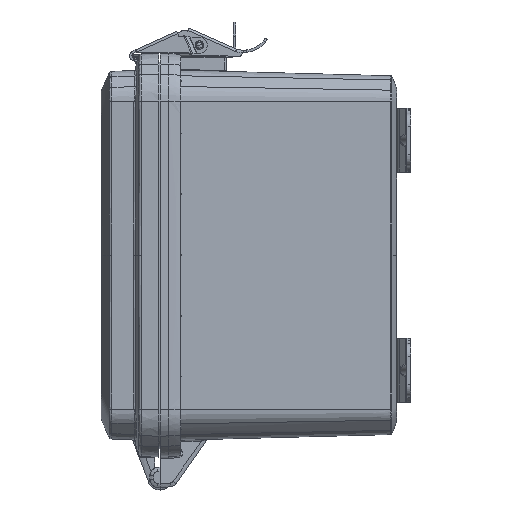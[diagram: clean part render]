
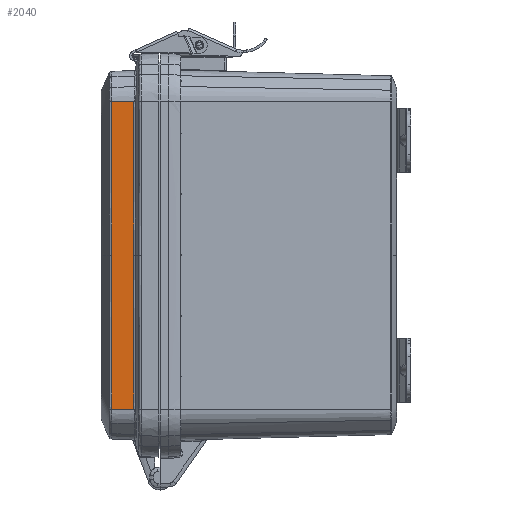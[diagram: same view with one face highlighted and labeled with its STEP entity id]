
A CAD part, left-side view. The second image highlights one B-rep face of the part: STEP entity #2040.
In plain terms, the highlighted planar face has unit normal (-0.999, 0.035, 0).
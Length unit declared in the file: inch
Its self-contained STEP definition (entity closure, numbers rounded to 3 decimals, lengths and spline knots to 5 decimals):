
#2040 = ADVANCED_FACE ( 'NONE', ( #77280 ), #132766, .T. ) ;
#2244 = CARTESIAN_POINT ( 'NONE',  ( -3.5929, 0.9193, -2.89876 ) ) ;
#3828 = CARTESIAN_POINT ( 'NONE',  ( -3.60806, 0.48517, -2.50711 ) ) ;
#3968 = CARTESIAN_POINT ( 'NONE',  ( -3.5929, 0.91923, 2.78908 ) ) ;
#4060 = CARTESIAN_POINT ( 'NONE',  ( -3.5929, 0.9192, 0. ) ) ;
#4304 = CARTESIAN_POINT ( 'NONE',  ( -3.60805, 0.48541, 0.50141 ) ) ;
#6324 = EDGE_CURVE ( 'NONE', #142980, #168136, #47146, .T. ) ;
#10131 = LINE ( 'NONE', #178328, #168307 ) ;
#13364 = VERTEX_POINT ( 'NONE', #73911 ) ;
#16022 = CARTESIAN_POINT ( 'NONE',  ( -3.59291, 0.91908, 3.00844 ) ) ;
#17712 = CARTESIAN_POINT ( 'NONE',  ( -3.60805, 0.48546, -2.83617 ) ) ;
#18618 = CARTESIAN_POINT ( 'NONE',  ( -3.60804, 0.48557, -2.89885 ) ) ;
#19087 = CARTESIAN_POINT ( 'NONE',  ( -3.60819, 0.48144, 3.00844 ) ) ;
#20913 = CARTESIAN_POINT ( 'NONE',  ( -3.60805, 0.4853, 2.75774 ) ) ;
#20998 = AXIS2_PLACEMENT_3D ( 'NONE', #61565, #150289, #104110 ) ;
#21849 = CARTESIAN_POINT ( 'NONE',  ( -3.60806, 0.48524, 2.69507 ) ) ;
#24629 = ORIENTED_EDGE ( 'NONE', *, *, #6324, .T. ) ;
#28609 = CARTESIAN_POINT ( 'NONE',  ( -3.5929, 0.9192, 0. ) ) ;
#29053 = CARTESIAN_POINT ( 'NONE',  ( -3.5929, 0.91933, -2.00563 ) ) ;
#31167 = ORIENTED_EDGE ( 'NONE', *, *, #135492, .T. ) ;
#31542 = CARTESIAN_POINT ( 'NONE',  ( -3.60804, 0.48557, -2.88318 ) ) ;
#32595 = CARTESIAN_POINT ( 'NONE',  ( -3.5929, 0.91918, 1.00281 ) ) ;
#32917 = EDGE_CURVE ( 'NONE', #37001, #111515, #146494, .T. ) ;
#32943 = CARTESIAN_POINT ( 'NONE',  ( -3.60804, 0.48558, 2.89876 ) ) ;
#34276 = CARTESIAN_POINT ( 'NONE',  ( -3.60805, 0.4854, 0. ) ) ;
#37001 = VERTEX_POINT ( 'NONE', #114462 ) ;
#37283 = CARTESIAN_POINT ( 'NONE',  ( -3.59289, 0.91948, -2.99277 ) ) ;
#43847 = CARTESIAN_POINT ( 'NONE',  ( -3.5929, 0.91927, -2.38168 ) ) ;
#44093 = VECTOR ( 'NONE', #144058, 39.37008 ) ;
#46492 = CARTESIAN_POINT ( 'NONE',  ( -3.5929, 0.91927, 2.38168 ) ) ;
#46648 = ORIENTED_EDGE ( 'NONE', *, *, #32917, .T. ) ;
#46827 = CARTESIAN_POINT ( 'NONE',  ( -3.60805, 0.4854, 0. ) ) ;
#47146 = B_SPLINE_CURVE_WITH_KNOTS ( 'NONE', 3,
 ( #16022, #129689, #88080, #144466, #74204, #3968, #60324, #173073, #46492, #102864, #159208, #32595, #145381, #126934 ),
 .UNSPECIFIED., .F., .F.,
 ( 4, 2, 1, 1, 2, 2, 2, 4 ),
 ( 0., 0.00119, 0.00239, 0.00478, 0.00955, 0.0191, 0.03821, 0.07641 ),
 .UNSPECIFIED. ) ;
#47479 = CARTESIAN_POINT ( 'NONE',  ( -3.59291, 0.91908, -3.00844 ) ) ;
#47729 = CARTESIAN_POINT ( 'NONE',  ( -3.60805, 0.48545, 1.75493 ) ) ;
#48150 = CARTESIAN_POINT ( 'NONE',  ( -3.60805, 0.4853, -2.75782 ) ) ;
#49714 = ORIENTED_EDGE ( 'NONE', *, *, #162810, .T. ) ;
#51707 = DIRECTION ( 'NONE',  ( -0.035, -0.999, 0. ) ) ;
#58611 = CARTESIAN_POINT ( 'NONE',  ( -3.5929, 0.91934, -2.94577 ) ) ;
#60324 = CARTESIAN_POINT ( 'NONE',  ( -3.5929, 0.91922, 2.69506 ) ) ;
#60415 = CARTESIAN_POINT ( 'NONE',  ( -3.5929, 0.91922, -2.50704 ) ) ;
#61565 = CARTESIAN_POINT ( 'NONE',  ( -3.625, 0., -3.00844 ) ) ;
#62893 = CARTESIAN_POINT ( 'NONE',  ( -3.60804, 0.48555, -2.00569 ) ) ;
#71544 = CARTESIAN_POINT ( 'NONE',  ( -3.5929, 0.91921, -0.50141 ) ) ;
#72463 = CARTESIAN_POINT ( 'NONE',  ( -3.5929, 0.91922, -2.69506 ) ) ;
#73911 = CARTESIAN_POINT ( 'NONE',  ( -3.59291, 0.91908, -3.00844 ) ) ;
#74204 = CARTESIAN_POINT ( 'NONE',  ( -3.5929, 0.9193, 2.89876 ) ) ;
#74690 = CARTESIAN_POINT ( 'NONE',  ( -3.625, 0., 3.00844 ) ) ;
#74964 = CARTESIAN_POINT ( 'NONE',  ( -3.60805, 0.48541, -0.50142 ) ) ;
#75198 = B_SPLINE_CURVE_WITH_KNOTS ( 'NONE', 3,
 ( #4060, #71544, #169528, #155668, #29053, #43847, #60415, #72463, #100226, #2244, #58611, #163868, #37283, #47479 ),
 .UNSPECIFIED., .F., .F.,
 ( 4, 2, 2, 2, 1, 1, 2, 4 ),
 ( 0., 0.03821, 0.05731, 0.06686, 0.07164, 0.07403, 0.07522, 0.07641 ),
 .UNSPECIFIED. ) ;
#77280 = FACE_OUTER_BOUND ( 'NONE', #169708, .T. ) ;
#77284 = CARTESIAN_POINT ( 'NONE',  ( -3.60804, 0.48557, 2.8831 ) ) ;
#87786 = CARTESIAN_POINT ( 'NONE',  ( -3.60819, 0.48144, 3.00844 ) ) ;
#88080 = CARTESIAN_POINT ( 'NONE',  ( -3.5929, 0.91937, 2.9771 ) ) ;
#89320 = CARTESIAN_POINT ( 'NONE',  ( -3.60812, 0.48344, 2.97711 ) ) ;
#90647 = CARTESIAN_POINT ( 'NONE',  ( -3.60819, 0.48144, -3.00844 ) ) ;
#95229 = B_SPLINE_CURVE_WITH_KNOTS ( 'NONE', 3,
 ( #90647, #133180, #174751, #18618, #31542, #144326, #17712, #48150, #129549, #3828, #104528, #62893, #160878, #131361, #74964, #34276 ),
 .UNSPECIFIED., .F., .F.,
 ( 4, 2, 2, 2, 2, 2, 2, 4 ),
 ( 0., 0.00239, 0.00358, 0.00478, 0.00955, 0.0191, 0.03821, 0.07641 ),
 .UNSPECIFIED. ) ;
#96482 = EDGE_CURVE ( 'NONE', #13364, #139186, #10131, .T. ) ;
#100226 = CARTESIAN_POINT ( 'NONE',  ( -3.5929, 0.91923, -2.78908 ) ) ;
#101741 = ORIENTED_EDGE ( 'NONE', *, *, #161310, .F. ) ;
#102864 = CARTESIAN_POINT ( 'NONE',  ( -3.5929, 0.91933, 2.00563 ) ) ;
#104110 = DIRECTION ( 'NONE',  ( -0.035, -0.999, 0. ) ) ;
#104528 = CARTESIAN_POINT ( 'NONE',  ( -3.60805, 0.48528, -2.38176 ) ) ;
#105020 = CARTESIAN_POINT ( 'NONE',  ( -3.60805, 0.48531, 1.00282 ) ) ;
#111515 = VERTEX_POINT ( 'NONE', #87786 ) ;
#114462 = CARTESIAN_POINT ( 'NONE',  ( -3.60805, 0.4854, 0. ) ) ;
#120703 = CARTESIAN_POINT ( 'NONE',  ( -3.60807, 0.48478, 2.94577 ) ) ;
#126934 = CARTESIAN_POINT ( 'NONE',  ( -3.5929, 0.9192, 0. ) ) ;
#129549 = CARTESIAN_POINT ( 'NONE',  ( -3.60806, 0.48524, -2.69514 ) ) ;
#129689 = CARTESIAN_POINT ( 'NONE',  ( -3.59289, 0.91948, 2.99277 ) ) ;
#131006 = CARTESIAN_POINT ( 'NONE',  ( -3.59291, 0.91908, 3.00844 ) ) ;
#131361 = CARTESIAN_POINT ( 'NONE',  ( -3.60805, 0.48531, -1.00284 ) ) ;
#132766 = PLANE ( 'NONE',  #20998 ) ;
#133180 = CARTESIAN_POINT ( 'NONE',  ( -3.60812, 0.48344, -2.97716 ) ) ;
#135492 = EDGE_CURVE ( 'NONE', #168136, #13364, #75198, .T. ) ;
#139186 = VERTEX_POINT ( 'NONE', #170651 ) ;
#142980 = VERTEX_POINT ( 'NONE', #131006 ) ;
#144058 = DIRECTION ( 'NONE',  ( -0.035, -0.999, 0. ) ) ;
#144326 = CARTESIAN_POINT ( 'NONE',  ( -3.60805, 0.48549, -2.85184 ) ) ;
#144466 = CARTESIAN_POINT ( 'NONE',  ( -3.5929, 0.91934, 2.94577 ) ) ;
#144807 = CARTESIAN_POINT ( 'NONE',  ( -3.60805, 0.48546, 2.83609 ) ) ;
#145381 = CARTESIAN_POINT ( 'NONE',  ( -3.5929, 0.91921, 0.50141 ) ) ;
#146494 = B_SPLINE_CURVE_WITH_KNOTS ( 'NONE', 3,
 ( #46827, #4304, #105020, #47729, #159548, #147541, #160472, #21849, #20913, #144807, #146621, #77284, #32943, #120703, #89320, #19087 ),
 .UNSPECIFIED., .F., .F.,
 ( 4, 2, 2, 2, 2, 2, 2, 4 ),
 ( 0., 0.03821, 0.05731, 0.06686, 0.07164, 0.07283, 0.07403, 0.07641 ),
 .UNSPECIFIED. ) ;
#146621 = CARTESIAN_POINT ( 'NONE',  ( -3.60805, 0.48549, 2.85176 ) ) ;
#147541 = CARTESIAN_POINT ( 'NONE',  ( -3.60805, 0.48528, 2.38169 ) ) ;
#150289 = DIRECTION ( 'NONE',  ( -0.999, 0.035, 0. ) ) ;
#155668 = CARTESIAN_POINT ( 'NONE',  ( -3.5929, 0.91927, -1.75492 ) ) ;
#159208 = CARTESIAN_POINT ( 'NONE',  ( -3.5929, 0.91927, 1.75492 ) ) ;
#159548 = CARTESIAN_POINT ( 'NONE',  ( -3.60804, 0.48555, 2.00563 ) ) ;
#159699 = LINE ( 'NONE', #74690, #44093 ) ;
#160472 = CARTESIAN_POINT ( 'NONE',  ( -3.60806, 0.48517, 2.50704 ) ) ;
#160878 = CARTESIAN_POINT ( 'NONE',  ( -3.60805, 0.48546, -1.75498 ) ) ;
#161310 = EDGE_CURVE ( 'NONE', #142980, #111515, #159699, .T. ) ;
#162810 = EDGE_CURVE ( 'NONE', #139186, #37001, #95229, .T. ) ;
#163868 = CARTESIAN_POINT ( 'NONE',  ( -3.5929, 0.91937, -2.9771 ) ) ;
#168136 = VERTEX_POINT ( 'NONE', #28609 ) ;
#168307 = VECTOR ( 'NONE', #51707, 39.37008 ) ;
#168915 = ORIENTED_EDGE ( 'NONE', *, *, #96482, .T. ) ;
#169528 = CARTESIAN_POINT ( 'NONE',  ( -3.5929, 0.91918, -1.00281 ) ) ;
#169708 = EDGE_LOOP ( 'NONE', ( #24629, #31167, #168915, #49714, #46648, #101741 ) ) ;
#170651 = CARTESIAN_POINT ( 'NONE',  ( -3.60819, 0.48144, -3.00844 ) ) ;
#173073 = CARTESIAN_POINT ( 'NONE',  ( -3.5929, 0.91922, 2.50704 ) ) ;
#174751 = CARTESIAN_POINT ( 'NONE',  ( -3.60807, 0.48478, -2.94585 ) ) ;
#178328 = CARTESIAN_POINT ( 'NONE',  ( -3.625, 0., -3.00844 ) ) ;
